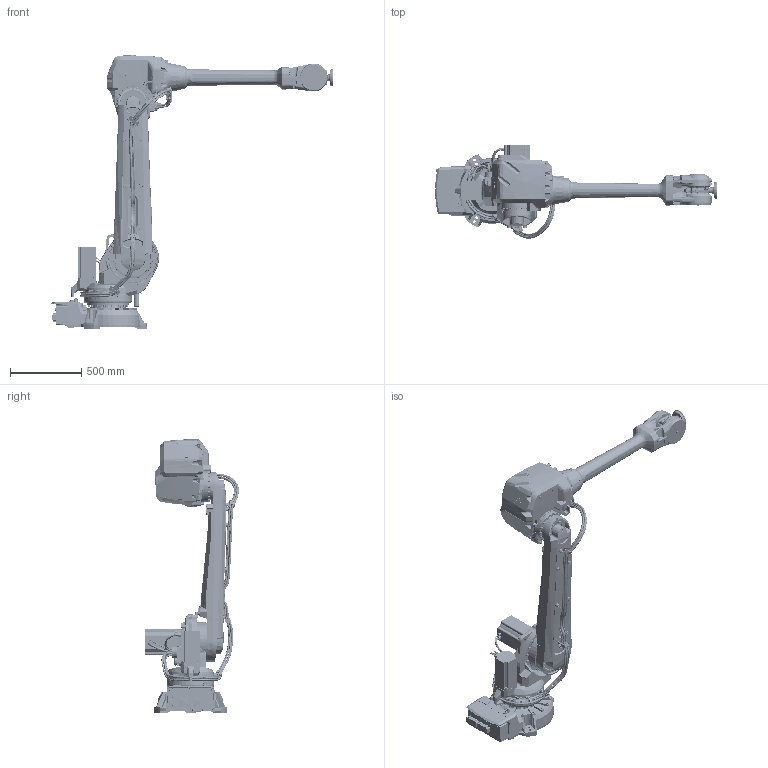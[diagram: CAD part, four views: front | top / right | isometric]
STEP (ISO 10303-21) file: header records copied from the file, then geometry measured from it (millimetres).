
FILE_DESCRIPTION(/* description */ (''),/* implementation_level */ '2;1');
FILE_NAME(/* name */ 'E:\组装完成的图纸\IRB 4600\IRB 4600-40-2.55\IRB 4600-40-2.55.stp',/* time_stamp */ '2023-11-03T22:01:03+08:00',/* author */ ('Administrator'),/* organization */ (''),/* preprocessor_version */ 'ST-DEVELOPER v16.5',/* originating_system */ 'Autodesk Inventor 2017',/* authorisation */ '');
FILE_SCHEMA (('AUTOMOTIVE_DESIGN { 1 0 10303 214 3 1 1 }'));
Products named in the file (11): 部件4; IRB4600_40kg-255_BASE_CAD_rev04; IRB4600_40kg-255_CABLES_LINK1_rev03; IRB4600_40kg-255_CABLES_LINK2_rev03; IRB4600_40kg-255_CABLES_LINK3_rev03; IRB4600_40kg-255_LINK1_CAD_rev04; IRB4600_40kg-255_LINK2_CAD_rev04; IRB4600_40kg-255_LINK3_CAD_rev04; IRB4600_40kg-255_LINK4_CAD_rev04; IRB4600_40kg-255_LINK5_CAD_rev04; IRB4600_40kg-255_LINK6_CAD_rev04
Assembly tree (10 placements, depth 2):
  部件4
    IRB4600_40kg-255_BASE_CAD_rev04
    IRB4600_40kg-255_CABLES_LINK1_rev03
    IRB4600_40kg-255_CABLES_LINK2_rev03
    IRB4600_40kg-255_CABLES_LINK3_rev03
    IRB4600_40kg-255_LINK1_CAD_rev04
    IRB4600_40kg-255_LINK2_CAD_rev04
    IRB4600_40kg-255_LINK3_CAD_rev04
    IRB4600_40kg-255_LINK4_CAD_rev04
    IRB4600_40kg-255_LINK5_CAD_rev04
    IRB4600_40kg-255_LINK6_CAD_rev04
Bounding box: 1980.97 x 659.15 x 1920.77 mm (x, y, z)
Volume: 161504072.6 mm3; surface area: 5711829.4 mm2
Topology: 10 solids, 12 shells, 4031 faces, 10268 edges, 6567 vertices
Faces by surface type: plane 1812, cylinder 839, bspline 804, cone 454, torus 96, sphere 26
Full cylindrical faces by diameter (mm): 5 x2, 5.263 x1, 5.5 x2, 6 x12, 6.8 x18, 6.9 x4, 6.959 x1, 7 x3, 7.1 x5, 7.5 x16, 8 x2, 8.3 x2, 8.5 x12, 9.5 x1, 10 x1, 10.2 x1, 10.22 x12, 10.5 x2, 10.6 x1, 11 x3, 11.9 x4, 12 x47, 13 x4, 13.3 x21, 15.551 x1, 15.665 x5, 16 x1, 16.27 x16, 16.3 x30, 17 x2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
Entity records: 193114 total; most frequent: CARTESIAN_POINT 102099, ORIENTED_EDGE 19246, DIRECTION 17584, EDGE_CURVE 9623, AXIS2_PLACEMENT_3D 6878, VERTEX_POINT 6435, EDGE_LOOP 4970, FACE_OUTER_BOUND 4031
